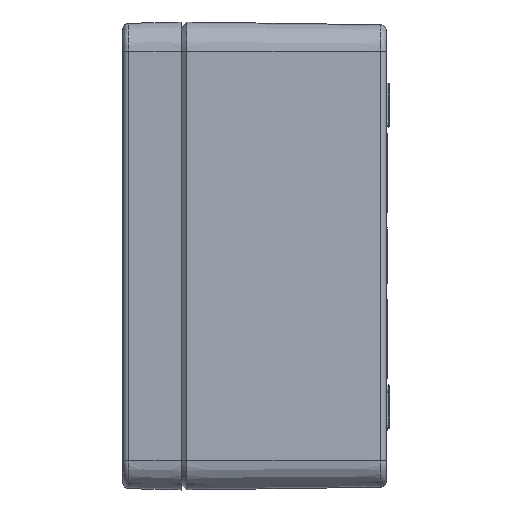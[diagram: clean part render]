
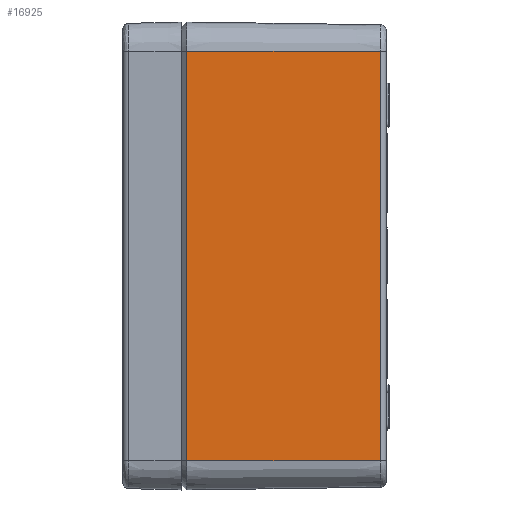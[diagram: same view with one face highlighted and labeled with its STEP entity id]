
A CAD part, left-side view. The second image highlights one B-rep face of the part: STEP entity #16925.
In plain terms, the highlighted planar face has unit normal (-1, -0.014, 0).
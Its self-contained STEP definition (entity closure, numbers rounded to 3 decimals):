
#1301 = CARTESIAN_POINT ( 'NONE',  ( -129.999, -1.8, 70.025 ) ) ;
#2373 = EDGE_CURVE ( 'NONE', #39602, #8407, #47905, .T. ) ;
#8407 = VERTEX_POINT ( 'NONE', #40257 ) ;
#8628 = VECTOR ( 'NONE', #28420, 1000. ) ;
#8962 = ORIENTED_EDGE ( 'NONE', *, *, #2373, .F. ) ;
#9045 = EDGE_LOOP ( 'NONE', ( #27910, #10845, #8962, #43161 ) ) ;
#10845 = ORIENTED_EDGE ( 'NONE', *, *, #20994, .F. ) ;
#12355 = VECTOR ( 'NONE', #16141, 1000. ) ;
#12590 = PLANE ( 'NONE',  #43373 ) ;
#13084 = EDGE_CURVE ( 'NONE', #18244, #19272, #25757, .T. ) ;
#14274 = CARTESIAN_POINT ( 'NONE',  ( -129.051, -68.029, -70.025 ) ) ;
#15359 = CARTESIAN_POINT ( 'NONE',  ( -130.025, 0., 70.025 ) ) ;
#15752 = DIRECTION ( 'NONE',  ( -1., -0.014, 0. ) ) ;
#16141 = DIRECTION ( 'NONE',  ( 0.014, -1., 0. ) ) ;
#16925 = ADVANCED_FACE ( 'NONE', ( #24135 ), #12590, .T. ) ;
#18244 = VERTEX_POINT ( 'NONE', #46951 ) ;
#18677 = CARTESIAN_POINT ( 'NONE',  ( -129.999, -1.8, 70.025 ) ) ;
#19272 = VERTEX_POINT ( 'NONE', #14274 ) ;
#20444 = CARTESIAN_POINT ( 'NONE',  ( -130.025, 0., 70.025 ) ) ;
#20994 = EDGE_CURVE ( 'NONE', #8407, #19272, #32099, .T. ) ;
#24135 = FACE_OUTER_BOUND ( 'NONE', #9045, .T. ) ;
#24652 = DIRECTION ( 'NONE',  ( 0.014, -1., 0. ) ) ;
#25757 = LINE ( 'NONE', #33648, #34721 ) ;
#27910 = ORIENTED_EDGE ( 'NONE', *, *, #13084, .T. ) ;
#28420 = DIRECTION ( 'NONE',  ( 0., 0., -1. ) ) ;
#29477 = VECTOR ( 'NONE', #48862, 1000. ) ;
#32099 = LINE ( 'NONE', #48912, #8628 ) ;
#33093 = EDGE_CURVE ( 'NONE', #39602, #18244, #40192, .T. ) ;
#33648 = CARTESIAN_POINT ( 'NONE',  ( -130.025, 0., -70.025 ) ) ;
#34721 = VECTOR ( 'NONE', #45715, 1000. ) ;
#39602 = VERTEX_POINT ( 'NONE', #18677 ) ;
#40192 = LINE ( 'NONE', #1301, #29477 ) ;
#40257 = CARTESIAN_POINT ( 'NONE',  ( -129.051, -68.029, 70.025 ) ) ;
#43161 = ORIENTED_EDGE ( 'NONE', *, *, #33093, .T. ) ;
#43373 = AXIS2_PLACEMENT_3D ( 'NONE', #20444, #15752, #24652 ) ;
#45715 = DIRECTION ( 'NONE',  ( 0.014, -1., 0. ) ) ;
#46951 = CARTESIAN_POINT ( 'NONE',  ( -129.999, -1.8, -70.025 ) ) ;
#47905 = LINE ( 'NONE', #15359, #12355 ) ;
#48862 = DIRECTION ( 'NONE',  ( 0., 0., -1. ) ) ;
#48912 = CARTESIAN_POINT ( 'NONE',  ( -129.051, -68.029, 70.025 ) ) ;
